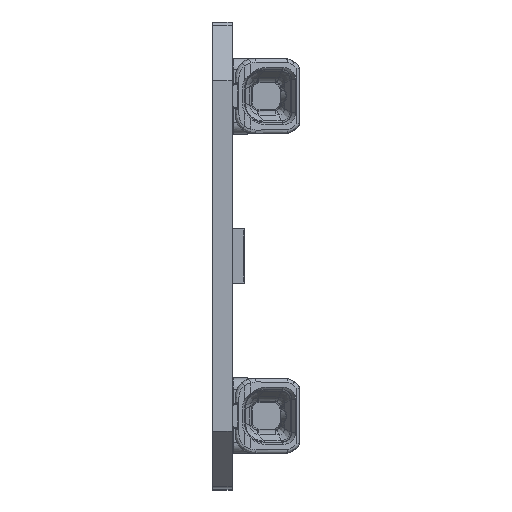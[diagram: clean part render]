
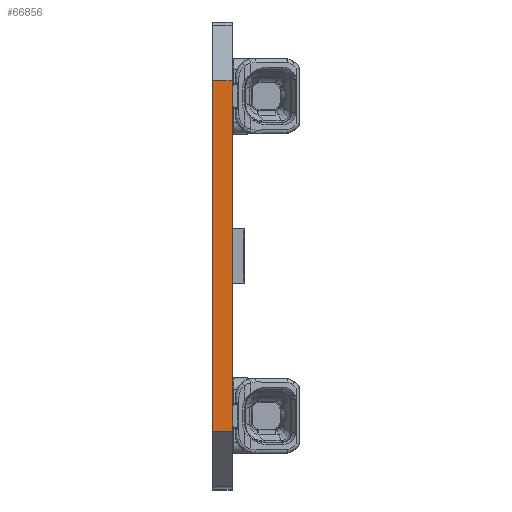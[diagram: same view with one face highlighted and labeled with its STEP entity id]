
A CAD part, left-side view. The second image highlights one B-rep face of the part: STEP entity #66856.
In plain terms, the highlighted planar face has unit normal (-1, 0, 0).
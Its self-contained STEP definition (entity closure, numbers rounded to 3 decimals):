
#4162=ORIENTED_EDGE('',*,*,#18468,.T.);
#4163=ORIENTED_EDGE('',*,*,#18505,.F.);
#4164=ORIENTED_EDGE('',*,*,#18354,.F.);
#4165=ORIENTED_EDGE('',*,*,#18506,.T.);
#18354=EDGE_CURVE('',#25562,#25563,#30115,.T.);
#18468=EDGE_CURVE('',#25677,#25676,#30193,.T.);
#18505=EDGE_CURVE('',#25563,#25676,#30225,.T.);
#18506=EDGE_CURVE('',#25562,#25677,#30226,.T.);
#25562=VERTEX_POINT('',#85078);
#25563=VERTEX_POINT('',#85080);
#25676=VERTEX_POINT('',#85307);
#25677=VERTEX_POINT('',#85309);
#30115=LINE('',#85079,#34863);
#30193=LINE('',#85308,#34941);
#30225=LINE('',#85383,#34973);
#30226=LINE('',#85385,#34974);
#34863=VECTOR('',#73337,1000.);
#34941=VECTOR('',#73489,1000.);
#34973=VECTOR('',#73581,1000.);
#34974=VECTOR('',#73584,1000.);
#39435=EDGE_LOOP('',(#4162,#4163,#4164,#4165));
#42465=FACE_BOUND('',#39435,.T.);
#45406=PLANE('',#69745);
#66856=ADVANCED_FACE('',(#42465),#45406,.F.);
#69745=AXIS2_PLACEMENT_3D('',#85384,#73582,#73583);
#73337=DIRECTION('',(0.,0.,-1.));
#73489=DIRECTION('',(0.,0.,-1.));
#73581=DIRECTION('',(0.,1.,0.));
#73582=DIRECTION('',(1.,0.,0.));
#73583=DIRECTION('',(0.,0.,-1.));
#73584=DIRECTION('',(0.,1.,0.));
#85078=CARTESIAN_POINT('',(-139.75,-1.,9.));
#85079=CARTESIAN_POINT('',(-139.75,-1.,9.));
#85080=CARTESIAN_POINT('',(-139.75,-1.,-9.));
#85307=CARTESIAN_POINT('',(-139.75,0.,-9.));
#85308=CARTESIAN_POINT('',(-139.75,0.,9.));
#85309=CARTESIAN_POINT('',(-139.75,0.,9.));
#85383=CARTESIAN_POINT('',(-139.75,-1.,-9.));
#85384=CARTESIAN_POINT('',(-139.75,-1.,9.));
#85385=CARTESIAN_POINT('',(-139.75,-1.,9.));
